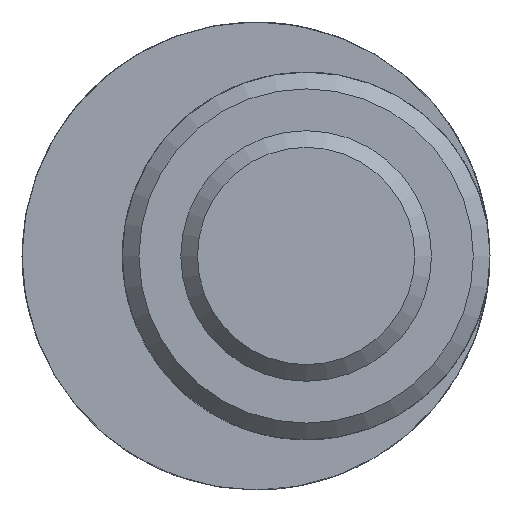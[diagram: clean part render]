
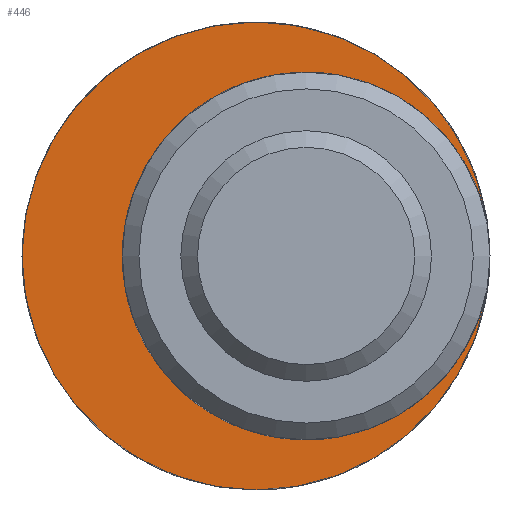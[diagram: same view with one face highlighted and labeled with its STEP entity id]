
A CAD part, left-side view. The second image highlights one B-rep face of the part: STEP entity #446.
In plain terms, the highlighted planar face has unit normal (1, 0, 0).
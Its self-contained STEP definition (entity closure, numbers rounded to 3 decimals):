
#28=PLANE('',#527);
#121=FACE_OUTER_BOUND('',#153,.T.);
#153=EDGE_LOOP('',(#402,#403,#404));
#180=CIRCLE('',#504,11.);
#191=CIRCLE('',#528,14.);
#192=CIRCLE('',#529,14.);
#220=VERTEX_POINT('',#820);
#233=VERTEX_POINT('',#868);
#270=EDGE_CURVE('',#220,#220,#180,.T.);
#291=EDGE_CURVE('',#220,#233,#191,.T.);
#292=EDGE_CURVE('',#233,#220,#192,.T.);
#402=ORIENTED_EDGE('',*,*,#291,.T.);
#403=ORIENTED_EDGE('',*,*,#292,.T.);
#404=ORIENTED_EDGE('',*,*,#270,.F.);
#446=ADVANCED_FACE('',(#121),#28,.F.);
#504=AXIS2_PLACEMENT_3D('',#822,#609,#610);
#527=AXIS2_PLACEMENT_3D('',#867,#665,#666);
#528=AXIS2_PLACEMENT_3D('',#869,#667,#668);
#529=AXIS2_PLACEMENT_3D('',#870,#669,#670);
#609=DIRECTION('center_axis',(1.,0.,0.));
#610=DIRECTION('ref_axis',(0.,1.,0.));
#665=DIRECTION('center_axis',(-1.,0.,0.));
#666=DIRECTION('ref_axis',(0.,0.,1.));
#667=DIRECTION('center_axis',(1.,0.,0.));
#668=DIRECTION('ref_axis',(0.,0.,1.));
#669=DIRECTION('center_axis',(1.,0.,0.));
#670=DIRECTION('ref_axis',(0.,0.,1.));
#820=CARTESIAN_POINT('',(-12.5,-11.,0.));
#822=CARTESIAN_POINT('Origin',(-12.5,0.,0.));
#867=CARTESIAN_POINT('Origin',(-12.5,3.,0.));
#868=CARTESIAN_POINT('',(-12.5,3.,-14.));
#869=CARTESIAN_POINT('Origin',(-12.5,3.,0.));
#870=CARTESIAN_POINT('Origin',(-12.5,3.,0.));
